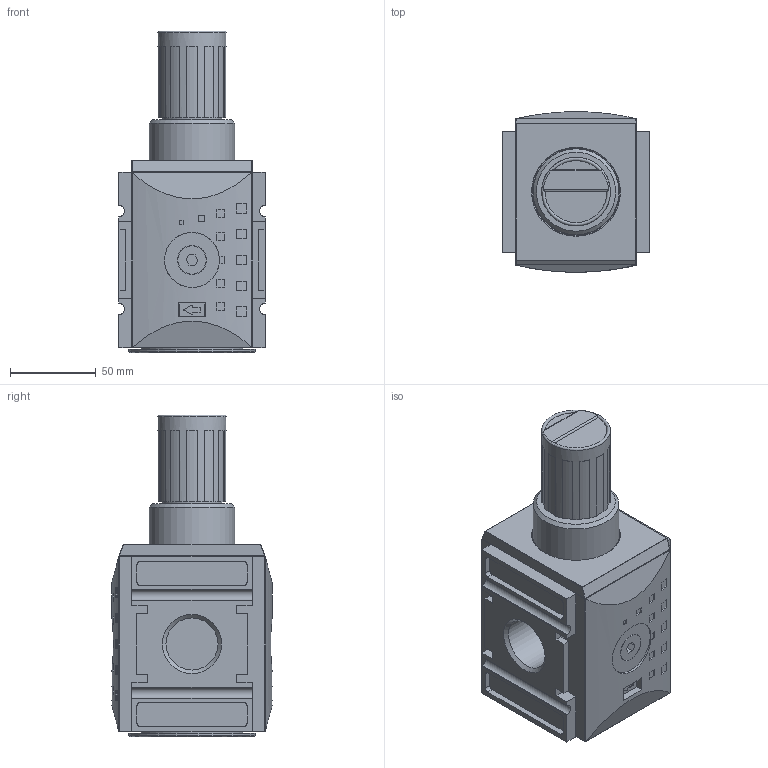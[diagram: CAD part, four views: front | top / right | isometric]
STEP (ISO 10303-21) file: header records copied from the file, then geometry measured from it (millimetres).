
FILE_DESCRIPTION((''),'2;1');
FILE_NAME('K:\ZEICHNG\Kunden Modelle\FUTURA Steps\BG4\KREG-41.stp','2010-02-09T14:27:21',('DDruske'),(''),'Autodesk Inventor 2009','Autodesk Inventor 2009','');
FILE_SCHEMA(('AUTOMOTIVE_DESIGN { 1 0 10303 214 1 1 1 1 }'));
Length unit declared in the file: millimetre
Products named in the file (1): Bauteil28
Bounding box: 85 x 93.28 x 187.1 mm (x, y, z)
Volume: 827267.7 mm3; surface area: 87286.6 mm2
Topology: 1 solids, 1 shells, 444 faces, 1146 edges, 738 vertices
Faces by surface type: plane 242, cylinder 121, bspline 58, torus 10, sphere 8, cone 5
Full cylindrical faces by diameter (mm): 16.5 x2, 30.291 x1, 32 x2, 35 x1, 40 x1, 50 x1, 60 x1, 74 x1
Entity records: 14207 total; most frequent: CARTESIAN_POINT 2941, ORIENTED_EDGE 2222, DIRECTION 2206, EDGE_CURVE 1111, VECTOR 742, LINE 742, VERTEX_POINT 733, AXIS2_PLACEMENT_3D 732
